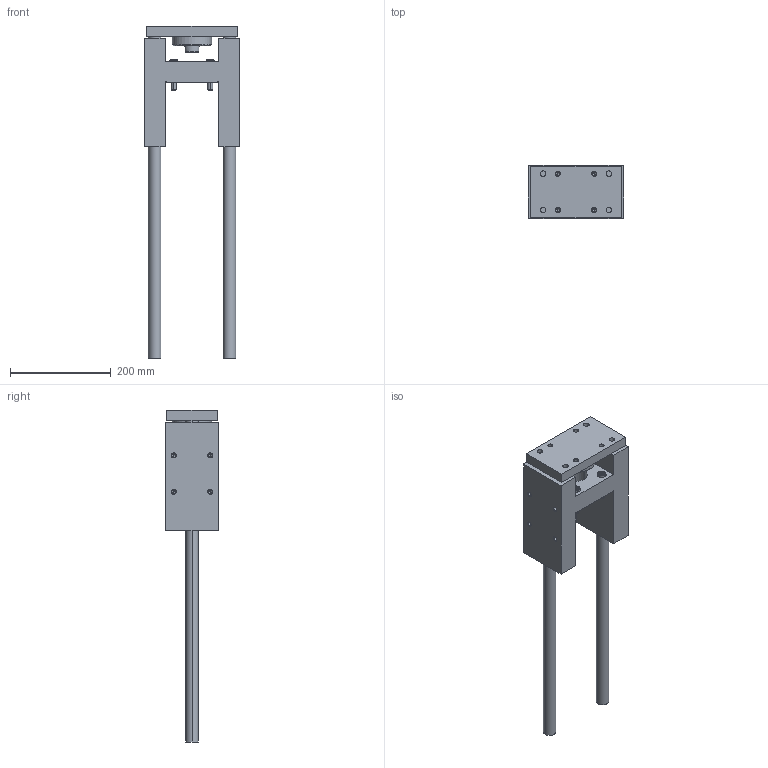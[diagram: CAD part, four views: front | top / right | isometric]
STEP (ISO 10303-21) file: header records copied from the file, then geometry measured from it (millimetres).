
FILE_DESCRIPTION (( 'STEP AP203' ), '1' );
FILE_NAME ('GB80-400.STEP', '2020-04-24T13:38:46', ( '' ), ( '' ), 'SwSTEP 2.0', 'SolidWorks 2019', '' );
FILE_SCHEMA (( 'CONFIG_CONTROL_DESIGN' ));
Length unit declared in the file: millimetre
Products named in the file (1): GB80-400
Bounding box: 189 x 105 x 658 mm (x, y, z)
Volume: 3089134.6 mm3; surface area: 382503.5 mm2
Topology: 6 solids, 6 shells, 329 faces, 728 edges, 412 vertices
Faces by surface type: cone 134, cylinder 98, plane 97
Entity records: 9631 total; most frequent: CARTESIAN_POINT 2242, DIRECTION 1662, ORIENTED_EDGE 1392, EDGE_CURVE 696, AXIS2_PLACEMENT_3D 664, VERTEX_POINT 412, EDGE_LOOP 392, VECTOR 334
